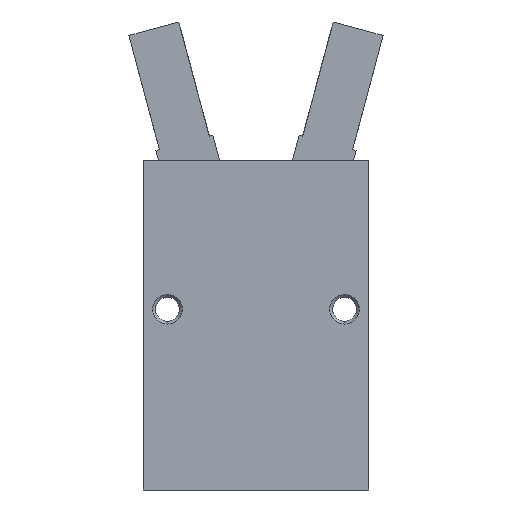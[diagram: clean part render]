
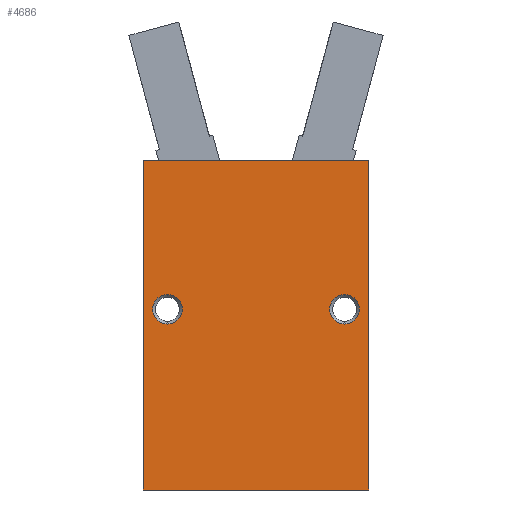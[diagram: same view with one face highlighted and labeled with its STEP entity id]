
A CAD part, front view. The second image highlights one B-rep face of the part: STEP entity #4686.
In plain terms, the highlighted planar face has unit normal (0, -1, 0).
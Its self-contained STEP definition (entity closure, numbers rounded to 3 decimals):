
#30 = DIRECTION ( 'NONE',  ( 0., 1., 0. ) ) ;
#127 = EDGE_CURVE ( 'NONE', #360, #4301, #913, .T. ) ;
#252 = DIRECTION ( 'NONE',  ( 0., 0., -1. ) ) ;
#349 = DIRECTION ( 'NONE',  ( 0., 1., 0. ) ) ;
#360 = VERTEX_POINT ( 'NONE', #2691 ) ;
#408 = CARTESIAN_POINT ( 'NONE',  ( 15.3, -11.8, 0. ) ) ;
#479 = CIRCLE ( 'NONE', #2980, 2. ) ;
#604 = VERTEX_POINT ( 'NONE', #3548 ) ;
#641 = DIRECTION ( 'NONE',  ( 0., 1., 0. ) ) ;
#700 = AXIS2_PLACEMENT_3D ( 'NONE', #3943, #4770, #2388 ) ;
#737 = CIRCLE ( 'NONE', #2908, 2. ) ;
#766 = AXIS2_PLACEMENT_3D ( 'NONE', #2746, #349, #3131 ) ;
#772 = EDGE_LOOP ( 'NONE', ( #3023, #5138 ) ) ;
#875 = VERTEX_POINT ( 'NONE', #3034 ) ;
#877 = LINE ( 'NONE', #2490, #1954 ) ;
#913 = CIRCLE ( 'NONE', #1538, 2. ) ;
#919 = LINE ( 'NONE', #4829, #1868 ) ;
#1021 = CARTESIAN_POINT ( 'NONE',  ( 12., -11.8, 22.5 ) ) ;
#1025 = ORIENTED_EDGE ( 'NONE', *, *, #1105, .T. ) ;
#1105 = EDGE_CURVE ( 'NONE', #1827, #604, #479, .T. ) ;
#1159 = ORIENTED_EDGE ( 'NONE', *, *, #2375, .F. ) ;
#1240 = CIRCLE ( 'NONE', #766, 2. ) ;
#1272 = ORIENTED_EDGE ( 'NONE', *, *, #4117, .T. ) ;
#1321 = CARTESIAN_POINT ( 'NONE',  ( -15.3, -11.8, 44.6 ) ) ;
#1390 = CARTESIAN_POINT ( 'NONE',  ( 0., -11.8, 44.6 ) ) ;
#1454 = CARTESIAN_POINT ( 'NONE',  ( 12., -11.8, 24.5 ) ) ;
#1538 = AXIS2_PLACEMENT_3D ( 'NONE', #5040, #5006, #4994 ) ;
#1564 = FACE_BOUND ( 'NONE', #772, .T. ) ;
#1648 = DIRECTION ( 'NONE',  ( 0., 0., 1. ) ) ;
#1827 = VERTEX_POINT ( 'NONE', #1021 ) ;
#1868 = VECTOR ( 'NONE', #1648, 1000. ) ;
#1954 = VECTOR ( 'NONE', #4881, 1000. ) ;
#2058 = EDGE_LOOP ( 'NONE', ( #1159, #2230, #1272, #2350 ) ) ;
#2230 = ORIENTED_EDGE ( 'NONE', *, *, #3956, .T. ) ;
#2350 = ORIENTED_EDGE ( 'NONE', *, *, #2656, .F. ) ;
#2375 = EDGE_CURVE ( 'NONE', #3883, #875, #4657, .T. ) ;
#2388 = DIRECTION ( 'NONE',  ( 1., 0., 0. ) ) ;
#2421 = VECTOR ( 'NONE', #4168, 1000. ) ;
#2429 = CARTESIAN_POINT ( 'NONE',  ( 12., -11.8, 24.5 ) ) ;
#2490 = CARTESIAN_POINT ( 'NONE',  ( -15.3, -11.8, 0. ) ) ;
#2531 = VECTOR ( 'NONE', #4564, 1000. ) ;
#2580 = CARTESIAN_POINT ( 'NONE',  ( 0., -11.8, 0. ) ) ;
#2656 = EDGE_CURVE ( 'NONE', #875, #2712, #877, .T. ) ;
#2691 = CARTESIAN_POINT ( 'NONE',  ( -12., -11.8, 22.5 ) ) ;
#2712 = VERTEX_POINT ( 'NONE', #1321 ) ;
#2746 = CARTESIAN_POINT ( 'NONE',  ( -12., -11.8, 24.5 ) ) ;
#2834 = DIRECTION ( 'NONE',  ( 0., 0., -1. ) ) ;
#2849 = VERTEX_POINT ( 'NONE', #3629 ) ;
#2908 = AXIS2_PLACEMENT_3D ( 'NONE', #2429, #30, #2834 ) ;
#2980 = AXIS2_PLACEMENT_3D ( 'NONE', #1454, #641, #252 ) ;
#3023 = ORIENTED_EDGE ( 'NONE', *, *, #127, .T. ) ;
#3034 = CARTESIAN_POINT ( 'NONE',  ( -15.3, -11.8, 0. ) ) ;
#3131 = DIRECTION ( 'NONE',  ( 0., 0., -1. ) ) ;
#3548 = CARTESIAN_POINT ( 'NONE',  ( 12., -11.8, 26.5 ) ) ;
#3629 = CARTESIAN_POINT ( 'NONE',  ( 15.3, -11.8, 44.6 ) ) ;
#3631 = EDGE_CURVE ( 'NONE', #4301, #360, #1240, .T. ) ;
#3789 = EDGE_CURVE ( 'NONE', #604, #1827, #737, .T. ) ;
#3883 = VERTEX_POINT ( 'NONE', #408 ) ;
#3943 = CARTESIAN_POINT ( 'NONE',  ( -15.3, -11.8, 0. ) ) ;
#3956 = EDGE_CURVE ( 'NONE', #3883, #2849, #919, .T. ) ;
#4005 = EDGE_LOOP ( 'NONE', ( #1025, #4196 ) ) ;
#4099 = CARTESIAN_POINT ( 'NONE',  ( -12., -11.8, 26.5 ) ) ;
#4117 = EDGE_CURVE ( 'NONE', #2849, #2712, #4405, .T. ) ;
#4168 = DIRECTION ( 'NONE',  ( -1., 0., 0. ) ) ;
#4196 = ORIENTED_EDGE ( 'NONE', *, *, #3789, .T. ) ;
#4233 = FACE_BOUND ( 'NONE', #4005, .T. ) ;
#4301 = VERTEX_POINT ( 'NONE', #4099 ) ;
#4366 = PLANE ( 'NONE',  #700 ) ;
#4405 = LINE ( 'NONE', #1390, #2421 ) ;
#4564 = DIRECTION ( 'NONE',  ( -1., 0., 0. ) ) ;
#4617 = FACE_OUTER_BOUND ( 'NONE', #2058, .T. ) ;
#4657 = LINE ( 'NONE', #2580, #2531 ) ;
#4686 = ADVANCED_FACE ( 'NONE', ( #1564, #4233, #4617 ), #4366, .T. ) ;
#4770 = DIRECTION ( 'NONE',  ( 0., -1., 0. ) ) ;
#4829 = CARTESIAN_POINT ( 'NONE',  ( 15.3, -11.8, 0. ) ) ;
#4881 = DIRECTION ( 'NONE',  ( 0., 0., 1. ) ) ;
#4994 = DIRECTION ( 'NONE',  ( 0., 0., -1. ) ) ;
#5006 = DIRECTION ( 'NONE',  ( 0., 1., 0. ) ) ;
#5040 = CARTESIAN_POINT ( 'NONE',  ( -12., -11.8, 24.5 ) ) ;
#5138 = ORIENTED_EDGE ( 'NONE', *, *, #3631, .T. ) ;
